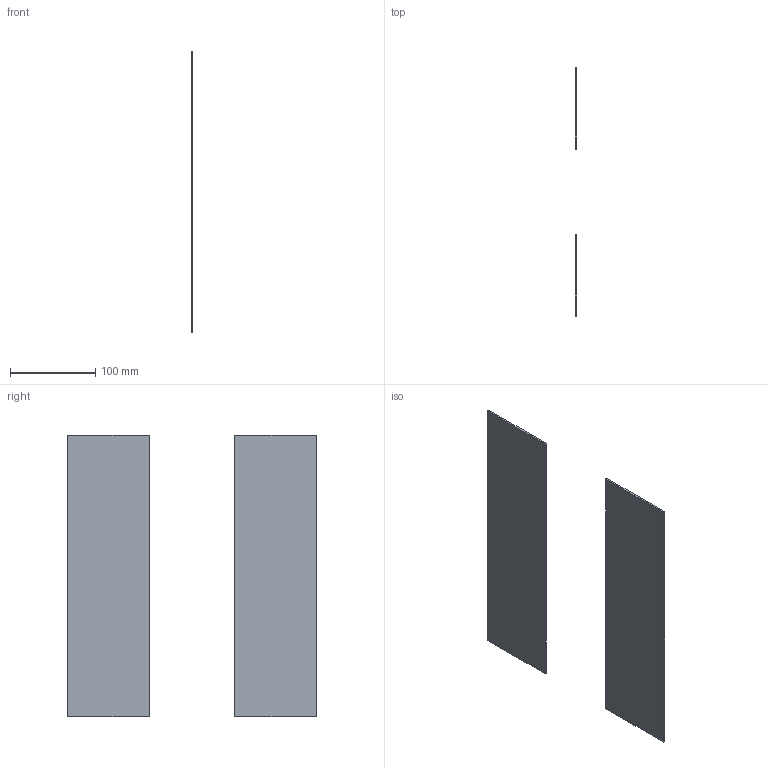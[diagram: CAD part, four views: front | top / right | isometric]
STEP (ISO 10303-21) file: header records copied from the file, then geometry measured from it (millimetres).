
FILE_DESCRIPTION(('Open CASCADE Model'),'2;1');
FILE_NAME('wings_dep','2026-08-12T02:42:46',('Author'),('Open CASCADE'), 'Open CASCADE STEP processor 7.9','build123d','Unknown');
FILE_SCHEMA(('AUTOMOTIVE_DESIGN { 1 0 10303 214 1 1 1 1 }'));
Length unit declared in the file: millimetre
Products named in the file (3): wings_dep; COMPOUND
Assembly tree (2 placements, depth 2):
  wings_dep
    COMPOUND
    COMPOUND
Bounding box: 2 x 292 x 330 mm (x, y, z)
Volume: 126720 mm3; surface area: 130128 mm2
Topology: 2 solids, 2 shells, 12 faces, 24 edges, 16 vertices
Faces by surface type: plane 12
Entity records: 664 total; most frequent: CARTESIAN_POINT 103, DIRECTION 102, LINE 72, VECTOR 72, ORIENTED_EDGE 48, PCURVE 48, DEFINITIONAL_REPRESENTATION 48, EDGE_CURVE 24
